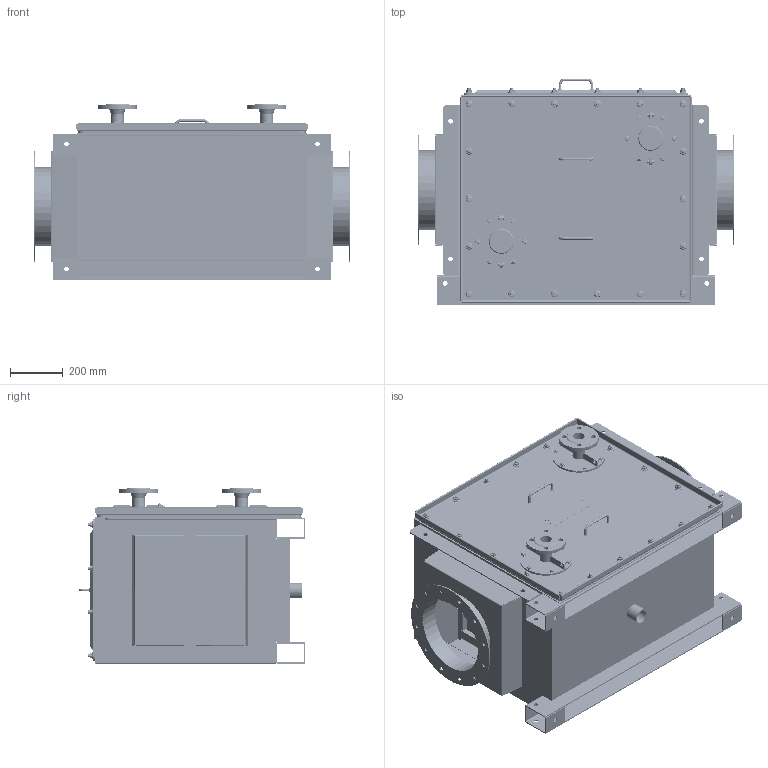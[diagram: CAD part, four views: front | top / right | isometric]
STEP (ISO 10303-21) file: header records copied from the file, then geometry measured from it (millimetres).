
FILE_DESCRIPTION (( 'STEP AP203' ), '1' );
FILE_NAME ('FW-400-H-A.STEP', '2024-12-19T11:13:51', ( '' ), ( '' ), 'SwSTEP 2.0', 'SolidWorks 2016', '' );
FILE_SCHEMA (( 'CONFIG_CONTROL_DESIGN' ));
Length unit declared in the file: millimetre
Products named in the file (55): DIN6923 - Sechskantmutter mit Flansch_DIN6923.M8 - Sechskantmutter mit Flansch M8; Plakette KLEIN - mit Schrauben_N.012.01 - FERCHER Plakette Klein; F.350.Z11 - Befestigung Verblendung Gesamt_F.350.Z11 - Befestigung Verblendung Gesamt; F.339.E03 - Gehäuse Teil 3_F.339.E03A - Geh„use Teil 3A; DIN933 - Sechskantschraube mit Gewinde bis unter Kopf_DIN933.M12L80 - Sechskantschraube; F.339.D01 - Dichtung Abdeckung Oben_F.339.D01A - Dichtung Abdeckung Oben A; F.339.E13 - Blende 3_F.339.E13 - Blende 3; N.014.04 - Scheibe; F.350.E51 - Verblendung_F.350.E51A - Verblendung Typ A; F.339.D02 - Dichtung Frontabdeckung_F.339.D02 - Dichtung Frontabdeckung; F.339.E11 - Blende 1_F.339.E11A - Blende 1A; F.339.E04 - Gehäuse Teil 4_F.339.E04A - Geh„use Teil 4A; DIN976 - Gewindestift_Gewindestift M12L20; F.339.Z03 - Frontabdeckung Gesamt_F.339.Z03A - Frontabdeckung A; F.339.E19 - Kondensatabflussrohr_F.339.E19 - Kondensatabflussrohr; F.350.Z10 - Rollenschiene Gesamt_F.350.Z10A - Rollenschiene Gesamt Typ A; F.350.E42 - Rolle_F.350.E42 - Rolle; F.339.E07 - Statik Teil 3_F.339.E07 - Statik Teil 3; F.339.E02 - Gehäuse Teil 2_F.339.E02 - Geh„use Teil 2; F.350 - Block 01_F.350 - Block 01 - FW-400-AR; FW-400-H-A; F.339.E05 - Statik Teil 1_F.339.E05 - Statik Teil 1; N.014.04 - Edelstahl Handgriff verschraubt_N.014.04 - Edelstahl Handgriff verschraubt; F.800.E100 - FERCHER Hebe-謘e_F.800.100A - Hebe-檚e Typ A; F.350.E43 - Schlitzblech_F.350.E43A - Schlitzblech Typ A; F.339.E04 - Gehäuse Teil 4 Gesamt_F.339.E04A - Geh„use Teil 4A; F.339.D03 - Dichtung Manschette_F.339.D03B - Dichtung Manschette B; F.339.E18 - Manschette Halbteil_F.339.E18B - Manschette Halbteil 1,5 Zoll; DIN933 - Sechskantschraube mit Gewinde bis unter Kopf_DIN933.M5L16; F.350.E50 - Befestigung Verblendung_F.350.E50 - Befestigung Verblendung; DIN6921 - Sechskantschraube mit Flansch_M8L16; N.012.01 - FERCHER Plakette Klein_N.012.01 - FERCHER Schild Klein; F.339.E01 - Gehäuse Teil 1_F.339.E01A - Geh„use Teil 1A; F.350.Z12 - Verblendung Gesamt_F.350.Z12A - Verblendung Gesamt Typ A; F.331.01 - FERCHER Abgas Norm-Flansch_F.331.01.DN300 - FERCHER Abgas Norm-Flansch DN300; F.339.Z10 - Manschette Gesamt_1,5 Zoll; F.339.E08 - Statik Teil 4_F.339.E08 - Statik Teil 4; N.001.DIN2633 - Vorschweißflansch DIN2633 PN16_DIN2633.DN40 - Vorschweiáflansch DIN2633 DN40 (1,5 Zoll); F.339.E06 - Statik Teil 2_F.339.E06A - Statik Teil 2A; F.339.E10 - Abgas Rohr_F.339.E10A - Abgas Rohr Typ A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
Assembly tree (172 placements, depth 4):
  FW-400-H-A
    F.339.E05 - Statik Teil 1_F.339.E05 - Statik Teil 1  x2
    F.339.E06 - Statik Teil 2_F.339.E06A - Statik Teil 2A  x2
    F.339.E07 - Statik Teil 3_F.339.E07 - Statik Teil 3  x2
    F.339.E08 - Statik Teil 4_F.339.E08 - Statik Teil 4  x4
    F.339.E01 - Gehäuse Teil 1_F.339.E01A - Geh„use Teil 1A
    F.339.E03 - Gehäuse Teil 3_F.339.E03A - Geh„use Teil 3A
    F.339.E02 - Gehäuse Teil 2 Gesamt_F.339.E02 - Geh„use Teil 2 Gesamt
      F.339.E02 - Gehäuse Teil 2_F.339.E02 - Geh„use Teil 2
      F.339.E31 - Gewindestift M12 L30_F.339.E31 - Gewindestift M12 L30  x18
    F.339.E04 - Gehäuse Teil 4 Gesamt_F.339.E04A - Geh„use Teil 4A
      F.339.E04 - Gehäuse Teil 4_F.339.E04A - Geh„use Teil 4A
      F.339.E31 - Gewindestift M12 L30_F.339.E31 - Gewindestift M12 L30  x16
    F.339.E09 - Übergang_F.339.E09A - šbergang Typ A  x2
    F.339.E10 - Abgas Rohr_F.339.E10A - Abgas Rohr Typ A  x2
    F.331.01 - FERCHER Abgas Norm-Flansch_F.331.01.DN300 - FERCHER Abgas Norm-Flansch DN300  x2
    F.339.Z03 - Frontabdeckung Gesamt_F.339.Z03A - Frontabdeckung A
      F.339.E16 - Frontabdeckung 1_F.339.E16B - Frontabdeckung 1B
      N.014.04 - Edelstahl Handgriff verschraubt_N.014.04 - Edelstahl Handgriff verschraubt  x2
        N.014.04 - Edelstahl Handgriff_N.014.04A - Edelstahl Handgriff
        N.014.04 - Scheibe
        DIN933 - Sechskantschraube mit Gewinde bis unter Kopf_DIN933.M5L16
      F.339.E30 - Gewindestift M8 L20_F.339.E30 - Gewindestift M8 L20  x12
      Plakette KLEIN - mit Schrauben_N.012.01 - FERCHER Plakette Klein
        N.012.01 - FERCHER Plakette Klein_N.012.01 - FERCHER Schild Klein
      DIN6923 - Sechskantmutter mit Flansch_DIN6923.M12 - Sechskantmutter mit Flansch M12  x18
    F.339.Z02 - Abdeckung Oben Gesamt_F.339.Z02A - Abdeckung Oben A
      F.339.E15 - Abdeckung Oben_F.339.E15A - Abdeckung Oben A
      N.014.04 - Edelstahl Handgriff verschraubt_N.014.04 - Edelstahl Handgriff verschraubt
        N.014.04 - Edelstahl Handgriff_N.014.04A - Edelstahl Handgriff
        N.014.04 - Scheibe  x2
        DIN933 - Sechskantschraube mit Gewinde bis unter Kopf_DIN933.M5L16  x2
      Plakette KLEIN - mit Schrauben_N.012.01 - FERCHER Plakette Klein
        N.012.01 - FERCHER Plakette Klein_N.012.01 - FERCHER Schild Klein
      DIN6923 - Sechskantmutter mit Flansch_DIN6923.M12 - Sechskantmutter mit Flansch M12  x16
    F.339.Z10 - Manschette Gesamt_1,5 Zoll  x2
      F.339.D03 - Dichtung Manschette_F.339.D03B - Dichtung Manschette B
      F.339.E18 - Manschette Halbteil_F.339.E18B - Manschette Halbteil 1,5 Zoll
      DIN6921 - Sechskantschraube mit Flansch_M8L16
      DIN6923 - Sechskantmutter mit Flansch_DIN6923.M8 - Sechskantmutter mit Flansch M8
    F.339.E11 - Blende 1_F.339.E11A - Blende 1A  x2
    F.339.E12 - Blende 2_F.339.E12A - Blende 2A  x2
    F.339.E13 - Blende 3_F.339.E13 - Blende 3  x2
    F.339.E14 - Blende 4_F.339.E14 - Blende 4  x2
    F.339.D02 - Dichtung Frontabdeckung_F.339.D02 - Dichtung Frontabdeckung
    F.339.D01 - Dichtung Abdeckung Oben_F.339.D01A - Dichtung Abdeckung Oben A
    F.350.Z02 - FW-Auszieh-Modul - Gesamt_F.350.Z02C - Modul FW-400(A)
      N.001.DIN2633 - Vorschweißflansch DIN2633 PN16_DIN2633.DN40 - Vorschweiáflansch DIN2633 DN40 (1,5 Zoll)  x2
      F.350.Z10 - Rollenschiene Gesamt_F.350.Z10A - Rollenschiene Gesamt Typ A  x2
        F.350.E40 - Schiene - Teil 1_F.350.E40A - Schiene Teil 1A
        F.350.E41 - Schiene - Teil 2_F.350.E41A - Schiene Teil 2A
        F.350.E42 - Rolle_F.350.E42 - Rolle
      F.800.E100 - FERCHER Hebe-謘e_F.800.100A - Hebe-檚e Typ A  x2
      F.350.Z12 - Verblendung Gesamt_F.350.Z12A - Verblendung Gesamt Typ A
        F.350.E51 - Verblendung_F.350.E51A - Verblendung Typ A
        DIN6923 - Sechskantmutter mit Flansch_DIN6923.M12 - Sechskantmutter mit Flansch M12  x4
      F.350.Z11 - Befestigung Verblendung Gesamt_F.350.Z11 - Befestigung Verblendung Gesamt  x4
        F.350.E50 - Befestigung Verblendung_F.350.E50 - Befestigung Verblendung
        DIN976 - Gewindestift_Gewindestift M12L20
      F.350.E43 - Schlitzblech_F.350.E43A - Schlitzblech Typ A
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Bounding box: 1200 x 858.78 x 663 mm (x, y, z)
Volume: 157867592.3 mm3; surface area: 15225956.8 mm2
Topology: 187 solids, 187 shells, 4766 faces, 11164 edges, 6788 vertices
Faces by surface type: cylinder 1674, plane 1546, torus 748, bspline 330, cone 252, sphere 216
Entity records: 59869 total; most frequent: CARTESIAN_POINT 15313, DIRECTION 7514, ORIENTED_EDGE 7140, EDGE_CURVE 3570, AXIS2_PLACEMENT_3D 2801, VERTEX_POINT 2192, LINE 1912, VECTOR 1912
